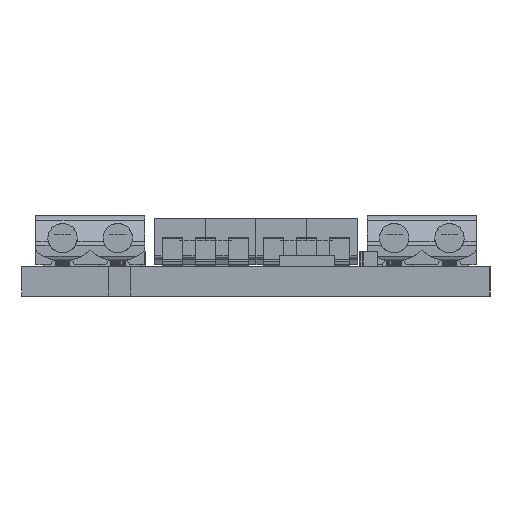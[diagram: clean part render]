
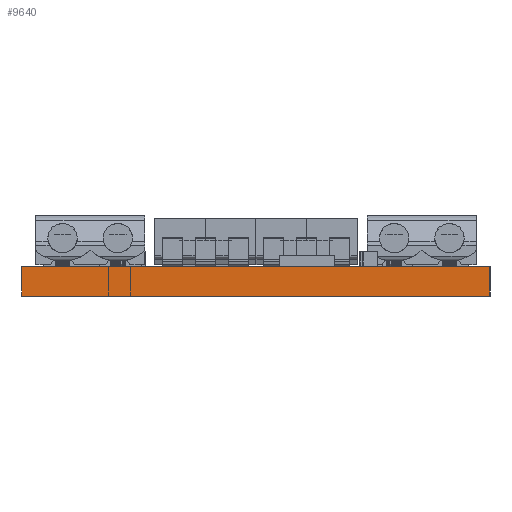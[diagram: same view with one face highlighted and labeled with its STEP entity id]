
A CAD part, left-side view. The second image highlights one B-rep face of the part: STEP entity #9640.
In plain terms, the highlighted planar face has unit normal (-1, 0, 0).
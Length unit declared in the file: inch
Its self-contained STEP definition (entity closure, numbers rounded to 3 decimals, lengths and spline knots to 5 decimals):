
#1297=DIRECTION('',(0.,-1.,0.));
#1298=VECTOR('',#1297,25.4);
#1299=CARTESIAN_POINT('',(-285.75,12.7,0.));
#1300=LINE('',#1299,#1298);
#2536=DIRECTION('',(0.,0.,1.));
#2537=VECTOR('',#2536,1.6);
#2538=CARTESIAN_POINT('',(-285.75,-12.7,0.));
#2539=LINE('',#2538,#2537);
#2543=DIRECTION('',(0.,0.,1.));
#2544=VECTOR('',#2543,1.6);
#2545=CARTESIAN_POINT('',(-285.75,12.7,0.));
#2546=LINE('',#2545,#2544);
#3831=DIRECTION('',(0.,-1.,0.));
#3832=VECTOR('',#3831,25.4);
#3833=CARTESIAN_POINT('',(-285.75,12.7,1.6));
#3834=LINE('',#3833,#3832);
#7422=CARTESIAN_POINT('',(-285.75,-12.7,0.));
#7424=VERTEX_POINT('',#7422);
#7788=CARTESIAN_POINT('',(-285.75,12.7,0.));
#7789=VERTEX_POINT('',#7788);
#7790=CARTESIAN_POINT('',(-285.75,-12.7,1.6));
#7792=VERTEX_POINT('',#7790);
#8156=CARTESIAN_POINT('',(-285.75,12.7,1.6));
#8157=VERTEX_POINT('',#8156);
#9627=CARTESIAN_POINT('',(-285.75,12.7,0.));
#9628=DIRECTION('',(-1.,0.,0.));
#9629=DIRECTION('',(0.,-1.,0.));
#9630=AXIS2_PLACEMENT_3D('',#9627,#9628,#9629);
#9631=PLANE('',#9630);
#9632=ORIENTED_EDGE('',*,*,#9145,.F.);
#9634=ORIENTED_EDGE('',*,*,#9633,.T.);
#9636=ORIENTED_EDGE('',*,*,#9635,.T.);
#9637=ORIENTED_EDGE('',*,*,#9618,.F.);
#9638=EDGE_LOOP('',(#9632,#9634,#9636,#9637));
#9639=FACE_OUTER_BOUND('',#9638,.F.);
#9145=EDGE_CURVE('',#7789,#7424,#1300,.T.);
#9618=EDGE_CURVE('',#7424,#7792,#2539,.T.);
#9633=EDGE_CURVE('',#7789,#8157,#2546,.T.);
#9635=EDGE_CURVE('',#8157,#7792,#3834,.T.);
#9640=ADVANCED_FACE('',(#9639),#9631,.T.);
